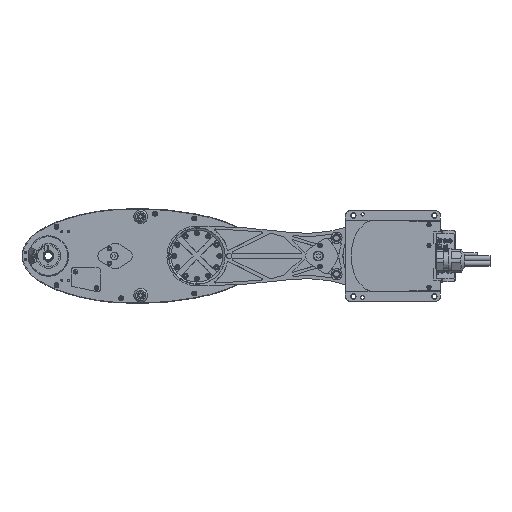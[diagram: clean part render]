
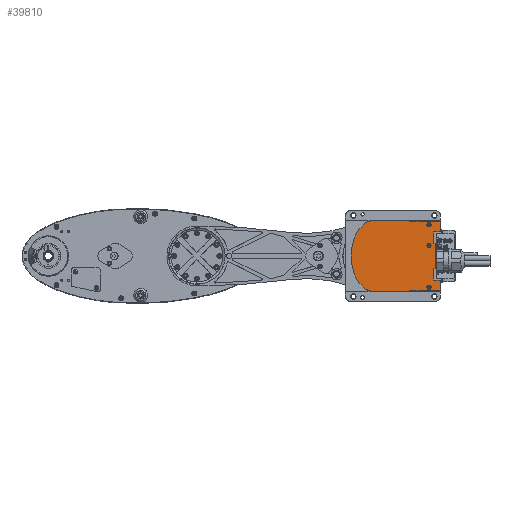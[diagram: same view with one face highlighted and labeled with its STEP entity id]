
A CAD part, front view. The second image highlights one B-rep face of the part: STEP entity #39810.
In plain terms, the highlighted planar face has unit normal (0, -1, 0).
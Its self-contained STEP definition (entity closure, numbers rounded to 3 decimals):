
#1525=PLANE('',#59441);
#5070=LINE('',#82563,#8796);
#5071=LINE('',#82565,#8797);
#5073=LINE('',#82569,#8799);
#5075=LINE('',#82579,#8801);
#5076=LINE('',#82581,#8802);
#5077=LINE('',#82585,#8803);
#5078=LINE('',#82589,#8804);
#5079=LINE('',#82591,#8805);
#5080=LINE('',#82593,#8806);
#5081=LINE('',#82595,#8807);
#5082=LINE('',#82597,#8808);
#5083=LINE('',#82599,#8809);
#5084=LINE('',#82601,#8810);
#5085=LINE('',#82605,#8811);
#5086=LINE('',#82609,#8812);
#8796=VECTOR('',#69092,1000.);
#8797=VECTOR('',#69095,1000.);
#8799=VECTOR('',#69099,1000.);
#8801=VECTOR('',#69109,1000.);
#8802=VECTOR('',#69110,1000.);
#8803=VECTOR('',#69113,1000.);
#8804=VECTOR('',#69116,1000.);
#8805=VECTOR('',#69117,1000.);
#8806=VECTOR('',#69118,1000.);
#8807=VECTOR('',#69119,1000.);
#8808=VECTOR('',#69120,1000.);
#8809=VECTOR('',#69121,1000.);
#8810=VECTOR('',#69122,1000.);
#8811=VECTOR('',#69125,1000.);
#8812=VECTOR('',#69128,1000.);
#18018=ORIENTED_EDGE('',*,*,#24878,.F.);
#18019=ORIENTED_EDGE('',*,*,#24879,.F.);
#18020=ORIENTED_EDGE('',*,*,#24880,.F.);
#18021=ORIENTED_EDGE('',*,*,#24876,.F.);
#18022=ORIENTED_EDGE('',*,*,#24874,.T.);
#18023=ORIENTED_EDGE('',*,*,#24854,.F.);
#18024=ORIENTED_EDGE('',*,*,#24860,.F.);
#18025=ORIENTED_EDGE('',*,*,#24848,.F.);
#18026=ORIENTED_EDGE('',*,*,#24873,.F.);
#18027=ORIENTED_EDGE('',*,*,#24881,.F.);
#18028=ORIENTED_EDGE('',*,*,#24882,.F.);
#18029=ORIENTED_EDGE('',*,*,#24883,.F.);
#18030=ORIENTED_EDGE('',*,*,#24884,.F.);
#18031=ORIENTED_EDGE('',*,*,#24885,.F.);
#18032=ORIENTED_EDGE('',*,*,#24886,.F.);
#18033=ORIENTED_EDGE('',*,*,#24887,.F.);
#18034=ORIENTED_EDGE('',*,*,#24888,.F.);
#18035=ORIENTED_EDGE('',*,*,#24889,.F.);
#18036=ORIENTED_EDGE('',*,*,#24890,.F.);
#18037=ORIENTED_EDGE('',*,*,#24891,.F.);
#18038=ORIENTED_EDGE('',*,*,#24892,.F.);
#18039=ORIENTED_EDGE('',*,*,#24893,.F.);
#18040=ORIENTED_EDGE('',*,*,#24894,.F.);
#18041=ORIENTED_EDGE('',*,*,#24895,.F.);
#18042=ORIENTED_EDGE('',*,*,#24896,.F.);
#24848=EDGE_CURVE('',#29036,#29037,#30954,.T.);
#24854=EDGE_CURVE('',#29042,#29043,#30957,.T.);
#24860=EDGE_CURVE('',#29037,#29042,#30960,.T.);
#24873=EDGE_CURVE('',#29052,#29036,#5070,.T.);
#24874=EDGE_CURVE('',#29053,#29043,#5071,.T.);
#24876=EDGE_CURVE('',#29053,#29054,#5073,.T.);
#24878=EDGE_CURVE('',#29055,#29055,#30966,.F.);
#24879=EDGE_CURVE('',#29056,#29056,#30967,.F.);
#24880=EDGE_CURVE('',#29057,#29057,#30968,.F.);
#24881=EDGE_CURVE('',#29058,#29052,#5075,.T.);
#24882=EDGE_CURVE('',#29059,#29058,#5076,.T.);
#24883=EDGE_CURVE('',#29060,#29059,#30969,.T.);
#24884=EDGE_CURVE('',#29061,#29060,#5077,.T.);
#24885=EDGE_CURVE('',#29062,#29061,#30970,.T.);
#24886=EDGE_CURVE('',#29063,#29062,#5078,.T.);
#24887=EDGE_CURVE('',#29064,#29063,#5079,.T.);
#24888=EDGE_CURVE('',#29065,#29064,#5080,.T.);
#24889=EDGE_CURVE('',#29066,#29065,#5081,.T.);
#24890=EDGE_CURVE('',#29067,#29066,#5082,.T.);
#24891=EDGE_CURVE('',#29068,#29067,#5083,.T.);
#24892=EDGE_CURVE('',#29069,#29068,#5084,.T.);
#24893=EDGE_CURVE('',#29070,#29069,#30971,.T.);
#24894=EDGE_CURVE('',#29071,#29070,#5085,.T.);
#24895=EDGE_CURVE('',#29072,#29071,#30972,.T.);
#24896=EDGE_CURVE('',#29054,#29072,#5086,.T.);
#29036=VERTEX_POINT('',#82514);
#29037=VERTEX_POINT('',#82515);
#29042=VERTEX_POINT('',#82527);
#29043=VERTEX_POINT('',#82528);
#29052=VERTEX_POINT('',#82562);
#29053=VERTEX_POINT('',#82566);
#29054=VERTEX_POINT('',#82570);
#29055=VERTEX_POINT('',#82574);
#29056=VERTEX_POINT('',#82576);
#29057=VERTEX_POINT('',#82578);
#29058=VERTEX_POINT('',#82580);
#29059=VERTEX_POINT('',#82582);
#29060=VERTEX_POINT('',#82584);
#29061=VERTEX_POINT('',#82586);
#29062=VERTEX_POINT('',#82588);
#29063=VERTEX_POINT('',#82590);
#29064=VERTEX_POINT('',#82592);
#29065=VERTEX_POINT('',#82594);
#29066=VERTEX_POINT('',#82596);
#29067=VERTEX_POINT('',#82598);
#29068=VERTEX_POINT('',#82600);
#29069=VERTEX_POINT('',#82602);
#29070=VERTEX_POINT('',#82604);
#29071=VERTEX_POINT('',#82606);
#29072=VERTEX_POINT('',#82608);
#30954=CIRCLE('',#59419,60.16);
#30957=CIRCLE('',#59423,60.16);
#30960=CIRCLE('',#59427,109.9);
#30966=CIRCLE('',#59442,3.922);
#30967=CIRCLE('',#59443,3.922);
#30968=CIRCLE('',#59444,3.922);
#30969=CIRCLE('',#59445,2.);
#30970=CIRCLE('',#59446,2.);
#30971=CIRCLE('',#59447,2.);
#30972=CIRCLE('',#59448,2.);
#33603=EDGE_LOOP('',(#18018));
#33604=EDGE_LOOP('',(#18019));
#33605=EDGE_LOOP('',(#18020));
#33606=EDGE_LOOP('',(#18021,#18022,#18023,#18024,#18025,#18026,#18027,#18028,
#18029,#18030,#18031,#18032,#18033,#18034,#18035,#18036,#18037,#18038,#18039,
#18040,#18041,#18042));
#36768=FACE_BOUND('',#33603,.T.);
#36769=FACE_BOUND('',#33604,.T.);
#36770=FACE_BOUND('',#33605,.T.);
#36771=FACE_BOUND('',#33606,.T.);
#39810=ADVANCED_FACE('',(#36768,#36769,#36770,#36771),#1525,.F.);
#59419=AXIS2_PLACEMENT_3D('',#82513,#69039,#69040);
#59423=AXIS2_PLACEMENT_3D('',#82526,#69050,#69051);
#59427=AXIS2_PLACEMENT_3D('',#82539,#69061,#69062);
#59441=AXIS2_PLACEMENT_3D('',#82572,#69101,#69102);
#59442=AXIS2_PLACEMENT_3D('',#82573,#69103,#69104);
#59443=AXIS2_PLACEMENT_3D('',#82575,#69105,#69106);
#59444=AXIS2_PLACEMENT_3D('',#82577,#69107,#69108);
#59445=AXIS2_PLACEMENT_3D('',#82583,#69111,#69112);
#59446=AXIS2_PLACEMENT_3D('',#82587,#69114,#69115);
#59447=AXIS2_PLACEMENT_3D('',#82603,#69123,#69124);
#59448=AXIS2_PLACEMENT_3D('',#82607,#69126,#69127);
#69039=DIRECTION('',(0.,1.,0.));
#69040=DIRECTION('',(1.,0.,0.));
#69050=DIRECTION('',(0.,1.,0.));
#69051=DIRECTION('',(1.,0.,0.));
#69061=DIRECTION('',(0.,1.,0.));
#69062=DIRECTION('',(1.,0.,0.));
#69092=DIRECTION('',(-1.,0.,0.));
#69095=DIRECTION('',(-1.,0.,0.));
#69099=DIRECTION('',(0.951,0.,-0.309));
#69101=DIRECTION('',(0.,1.,0.));
#69102=DIRECTION('',(0.,0.,1.));
#69103=DIRECTION('',(0.,1.,0.));
#69104=DIRECTION('',(0.,0.,1.));
#69105=DIRECTION('',(0.,1.,0.));
#69106=DIRECTION('',(0.,0.,1.));
#69107=DIRECTION('',(0.,1.,0.));
#69108=DIRECTION('',(0.,0.,1.));
#69109=DIRECTION('',(-0.951,0.,-0.309));
#69110=DIRECTION('',(-1.,0.,0.));
#69111=DIRECTION('',(0.,1.,0.));
#69112=DIRECTION('',(1.,0.,0.));
#69113=DIRECTION('',(0.,0.,-1.));
#69114=DIRECTION('',(0.,1.,0.));
#69115=DIRECTION('',(1.,0.,0.));
#69116=DIRECTION('',(1.,0.,0.));
#69117=DIRECTION('',(0.,0.,-1.));
#69118=DIRECTION('',(-1.,0.,0.));
#69119=DIRECTION('',(0.,0.,-1.));
#69120=DIRECTION('',(1.,0.,0.));
#69121=DIRECTION('',(0.,0.,-1.));
#69122=DIRECTION('',(-1.,0.,0.));
#69123=DIRECTION('',(0.,1.,0.));
#69124=DIRECTION('',(1.,0.,0.));
#69125=DIRECTION('',(0.,0.,-1.));
#69126=DIRECTION('',(0.,1.,0.));
#69127=DIRECTION('',(1.,0.,0.));
#69128=DIRECTION('',(1.,0.,0.));
#82513=CARTESIAN_POINT('',(12.6,5.,-12.));
#82514=CARTESIAN_POINT('',(-13.959,5.,-65.98));
#82515=CARTESIAN_POINT('',(-43.729,5.,-33.125));
#82526=CARTESIAN_POINT('',(12.6,5.,12.));
#82527=CARTESIAN_POINT('',(-43.729,5.,33.125));
#82528=CARTESIAN_POINT('',(-14.081,5.,65.92));
#82539=CARTESIAN_POINT('',(61.06,5.,0.));
#82562=CARTESIAN_POINT('',(55.21,5.,-65.98));
#82563=CARTESIAN_POINT('',(55.21,5.,-65.98));
#82565=CARTESIAN_POINT('',(-14.081,5.,65.92));
#82566=CARTESIAN_POINT('',(55.395,5.,65.92));
#82569=CARTESIAN_POINT('',(55.21,5.,65.98));
#82570=CARTESIAN_POINT('',(59.765,5.,64.5));
#82572=CARTESIAN_POINT('',(12.6,5.,-12.));
#82573=CARTESIAN_POINT('',(95.,5.,-58.));
#82574=CARTESIAN_POINT('',(95.,5.,-54.079));
#82575=CARTESIAN_POINT('',(95.,5.,19.5));
#82576=CARTESIAN_POINT('',(95.,5.,23.422));
#82577=CARTESIAN_POINT('',(95.,5.,58.));
#82578=CARTESIAN_POINT('',(95.,5.,61.922));
#82579=CARTESIAN_POINT('',(59.765,5.,-64.5));
#82580=CARTESIAN_POINT('',(59.765,5.,-64.5));
#82581=CARTESIAN_POINT('',(113.684,5.,-64.5));
#82582=CARTESIAN_POINT('',(113.684,5.,-64.5));
#82583=CARTESIAN_POINT('',(113.684,5.,-62.5));
#82584=CARTESIAN_POINT('',(115.684,5.,-62.5));
#82585=CARTESIAN_POINT('',(115.684,5.,-46.5));
#82586=CARTESIAN_POINT('',(115.684,5.,-46.5));
#82587=CARTESIAN_POINT('',(113.684,5.,-46.5));
#82588=CARTESIAN_POINT('',(113.684,5.,-44.5));
#82589=CARTESIAN_POINT('',(103.684,5.,-44.5));
#82590=CARTESIAN_POINT('',(103.684,5.,-44.5));
#82591=CARTESIAN_POINT('',(103.684,5.,-23.5));
#82592=CARTESIAN_POINT('',(103.684,5.,-23.5));
#82593=CARTESIAN_POINT('',(106.684,5.,-23.5));
#82594=CARTESIAN_POINT('',(106.684,5.,-23.5));
#82595=CARTESIAN_POINT('',(106.684,5.,23.5));
#82596=CARTESIAN_POINT('',(106.684,5.,23.5));
#82597=CARTESIAN_POINT('',(103.684,5.,23.5));
#82598=CARTESIAN_POINT('',(103.684,5.,23.5));
#82599=CARTESIAN_POINT('',(103.684,5.,44.5));
#82600=CARTESIAN_POINT('',(103.684,5.,44.5));
#82601=CARTESIAN_POINT('',(113.684,5.,44.5));
#82602=CARTESIAN_POINT('',(113.684,5.,44.5));
#82603=CARTESIAN_POINT('',(113.684,5.,46.5));
#82604=CARTESIAN_POINT('',(115.684,5.,46.5));
#82605=CARTESIAN_POINT('',(115.684,5.,62.5));
#82606=CARTESIAN_POINT('',(115.684,5.,62.5));
#82607=CARTESIAN_POINT('',(113.684,5.,62.5));
#82608=CARTESIAN_POINT('',(113.684,5.,64.5));
#82609=CARTESIAN_POINT('',(59.765,5.,64.5));
